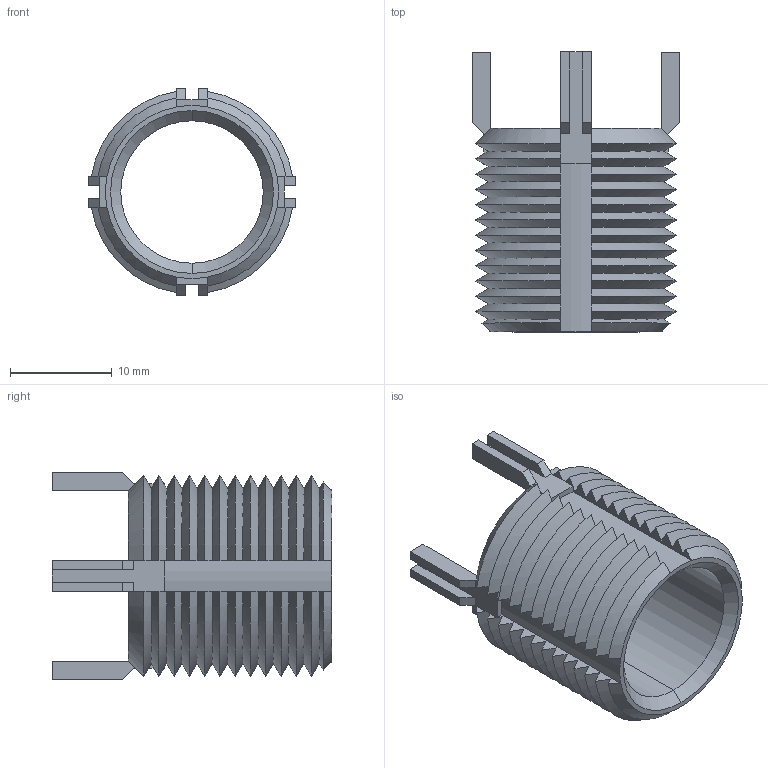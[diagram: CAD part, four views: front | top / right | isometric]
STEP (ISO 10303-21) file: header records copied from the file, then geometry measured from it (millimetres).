
FILE_DESCRIPTION (( 'STEP AP203' ), '1' );
FILE_NAME ('22002.W5700.step', '2023-03-20T19:29:03', ( '' ), ( '' ), 'SwSTEP 2.0', 'SolidWorks 2019', '' );
FILE_SCHEMA (( 'CONFIG_CONTROL_DESIGN' ));
Length unit declared in the file: millimetre
Products named in the file (1): 22002.W5700
Bounding box: 20.33 x 27.5 x 20.33 mm (x, y, z)
Volume: 2291 mm3; surface area: 3513.3 mm2
Topology: 1 solids, 1 shells, 204 faces, 546 edges, 344 vertices
Faces by surface type: cone 108, plane 90, cylinder 6
Entity records: 6639 total; most frequent: CARTESIAN_POINT 1875, ORIENTED_EDGE 1092, DIRECTION 832, EDGE_CURVE 546, VERTEX_POINT 344, AXIS2_PLACEMENT_3D 329, B_SPLINE_CURVE_WITH_KNOTS 248, EDGE_LOOP 206
